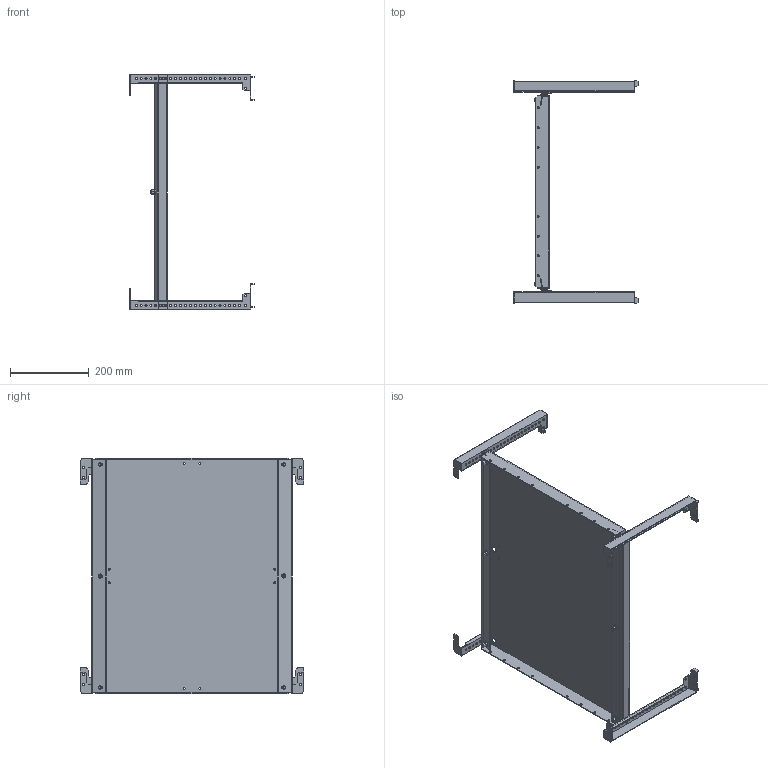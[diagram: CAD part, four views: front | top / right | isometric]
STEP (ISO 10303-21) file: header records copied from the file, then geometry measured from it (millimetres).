
FILE_DESCRIPTION (( 'STEP AP214' ), '1' );
FILE_NAME ('FO-00-MPU-060-060 Ïàíåëü ìîíòàæíàÿ óíèâåðñàëüíàÿ 600?600 ìì.STEP', '2025-07-16T07:07:16', ( '' ), ( '' ), 'SwSTEP 2.0', 'SolidWorks 2023', '' );
FILE_SCHEMA (( 'AUTOMOTIVE_DESIGN' ));
Length unit declared in the file: millimetre
Products named in the file (5): Панель монтажная универсальная 600×600; Винты DIN 912 4xM6x20 600x600; FO-00-MPU-060-060 Панель монтажная универсальная 600×600 мм; Траверса горизонтальнаяD; Траверса горизонтальная
Assembly tree (6 placements, depth 2):
  FO-00-MPU-060-060 Панель монтажная универсальная 600×600 мм
    Панель монтажная универсальная 600×600
    Винты DIN 912 4xM6x20 600x600
    Траверса горизонтальная  x2
    Траверса горизонтальнаяD  x2
Bounding box: 314.53 x 565.63 x 597 mm (x, y, z)
Volume: 1093925.2 mm3; surface area: 1175305.1 mm2
Topology: 11 solids, 11 shells, 1136 faces, 3048 edges, 2008 vertices
Faces by surface type: cylinder 516, plane 504, cone 76, torus 40
Entity records: 29993 total; most frequent: CARTESIAN_POINT 6173, DIRECTION 5088, ORIENTED_EDGE 4764, EDGE_CURVE 2382, AXIS2_PLACEMENT_3D 1879, VERTEX_POINT 1564, LINE 1330, VECTOR 1330
